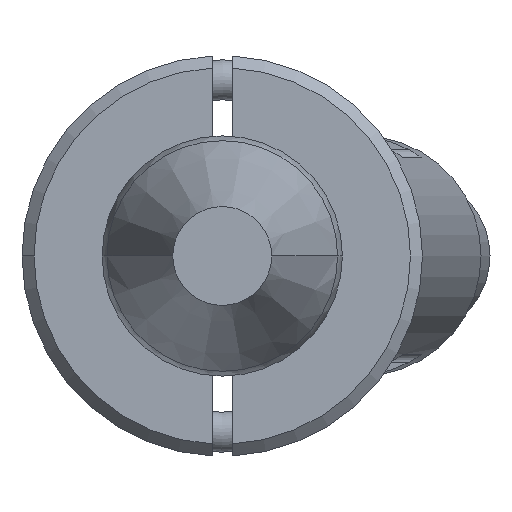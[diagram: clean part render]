
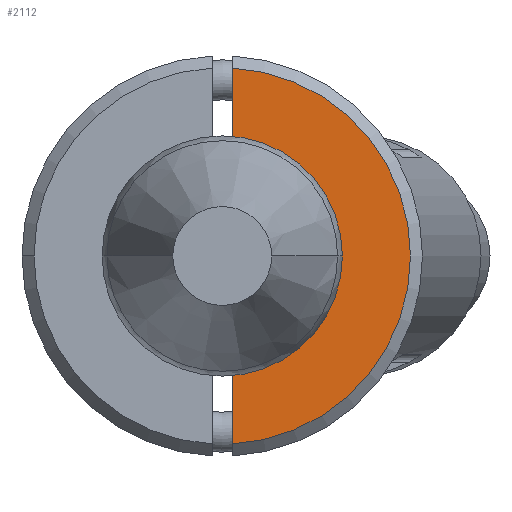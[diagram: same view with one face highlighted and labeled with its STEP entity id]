
A CAD part, front view. The second image highlights one B-rep face of the part: STEP entity #2112.
In plain terms, the highlighted planar face has unit normal (0, -1, 0).
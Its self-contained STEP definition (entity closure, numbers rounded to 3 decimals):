
#119 = DIRECTION ( 'NONE',  ( 1., 0., 0. ) ) ;
#282 = CARTESIAN_POINT ( 'NONE',  ( -4.693, -6., -0.25 ) ) ;
#296 = CARTESIAN_POINT ( 'NONE',  ( 0., -6., -2.45 ) ) ;
#411 = LINE ( 'NONE', #2756, #2486 ) ;
#467 = CARTESIAN_POINT ( 'NONE',  ( 2.437, -6., -0.25 ) ) ;
#649 = DIRECTION ( 'NONE',  ( 0., -1., 0. ) ) ;
#726 = AXIS2_PLACEMENT_3D ( 'NONE', #916, #951, #2683 ) ;
#797 = VECTOR ( 'NONE', #3378, 1000. ) ;
#916 = CARTESIAN_POINT ( 'NONE',  ( 0., -6., 0. ) ) ;
#951 = DIRECTION ( 'NONE',  ( 0., -1., 0. ) ) ;
#1009 = DIRECTION ( 'NONE',  ( 0., 1., 0. ) ) ;
#1069 = ORIENTED_EDGE ( 'NONE', *, *, #3557, .T. ) ;
#1127 = ORIENTED_EDGE ( 'NONE', *, *, #3544, .F. ) ;
#1473 = VERTEX_POINT ( 'NONE', #2137 ) ;
#1564 = VERTEX_POINT ( 'NONE', #296 ) ;
#1566 = ORIENTED_EDGE ( 'NONE', *, *, #3512, .T. ) ;
#1769 = CARTESIAN_POINT ( 'NONE',  ( -5., -6., 0. ) ) ;
#1819 = VERTEX_POINT ( 'NONE', #467 ) ;
#1895 = DIRECTION ( 'NONE',  ( 0., 0., -1. ) ) ;
#1947 = EDGE_CURVE ( 'NONE', #1819, #2537, #411, .T. ) ;
#1966 = LINE ( 'NONE', #2171, #797 ) ;
#1987 = CARTESIAN_POINT ( 'NONE',  ( 4.693, -6., -0.25 ) ) ;
#2112 = ADVANCED_FACE ( 'NONE', ( #3240 ), #3296, .T. ) ;
#2137 = CARTESIAN_POINT ( 'NONE',  ( -2.437, -6., -0.25 ) ) ;
#2171 = CARTESIAN_POINT ( 'NONE',  ( -5., -6., -0.25 ) ) ;
#2298 = AXIS2_PLACEMENT_3D ( 'NONE', #1769, #649, #2387 ) ;
#2312 = CIRCLE ( 'NONE', #726, 4.7 ) ;
#2371 = AXIS2_PLACEMENT_3D ( 'NONE', #3100, #2843, #3729 ) ;
#2387 = DIRECTION ( 'NONE',  ( 0., 0., -1. ) ) ;
#2486 = VECTOR ( 'NONE', #119, 1000. ) ;
#2537 = VERTEX_POINT ( 'NONE', #1987 ) ;
#2567 = CIRCLE ( 'NONE', #3070, 2.45 ) ;
#2683 = DIRECTION ( 'NONE',  ( 0., 0., -1. ) ) ;
#2756 = CARTESIAN_POINT ( 'NONE',  ( -5., -6., -0.25 ) ) ;
#2843 = DIRECTION ( 'NONE',  ( 0., 1., 0. ) ) ;
#2948 = CIRCLE ( 'NONE', #2371, 2.45 ) ;
#3070 = AXIS2_PLACEMENT_3D ( 'NONE', #3664, #1009, #1895 ) ;
#3100 = CARTESIAN_POINT ( 'NONE',  ( 0., -6., 0. ) ) ;
#3211 = EDGE_CURVE ( 'NONE', #1819, #1564, #2567, .T. ) ;
#3240 = FACE_OUTER_BOUND ( 'NONE', #3524, .T. ) ;
#3296 = PLANE ( 'NONE',  #2298 ) ;
#3362 = VERTEX_POINT ( 'NONE', #282 ) ;
#3378 = DIRECTION ( 'NONE',  ( 1., 0., 0. ) ) ;
#3448 = ORIENTED_EDGE ( 'NONE', *, *, #1947, .F. ) ;
#3512 = EDGE_CURVE ( 'NONE', #3362, #2537, #2312, .T. ) ;
#3524 = EDGE_LOOP ( 'NONE', ( #1127, #1566, #3448, #3699, #1069 ) ) ;
#3544 = EDGE_CURVE ( 'NONE', #3362, #1473, #1966, .T. ) ;
#3557 = EDGE_CURVE ( 'NONE', #1564, #1473, #2948, .T. ) ;
#3664 = CARTESIAN_POINT ( 'NONE',  ( 0., -6., 0. ) ) ;
#3699 = ORIENTED_EDGE ( 'NONE', *, *, #3211, .T. ) ;
#3729 = DIRECTION ( 'NONE',  ( 0., 0., -1. ) ) ;
